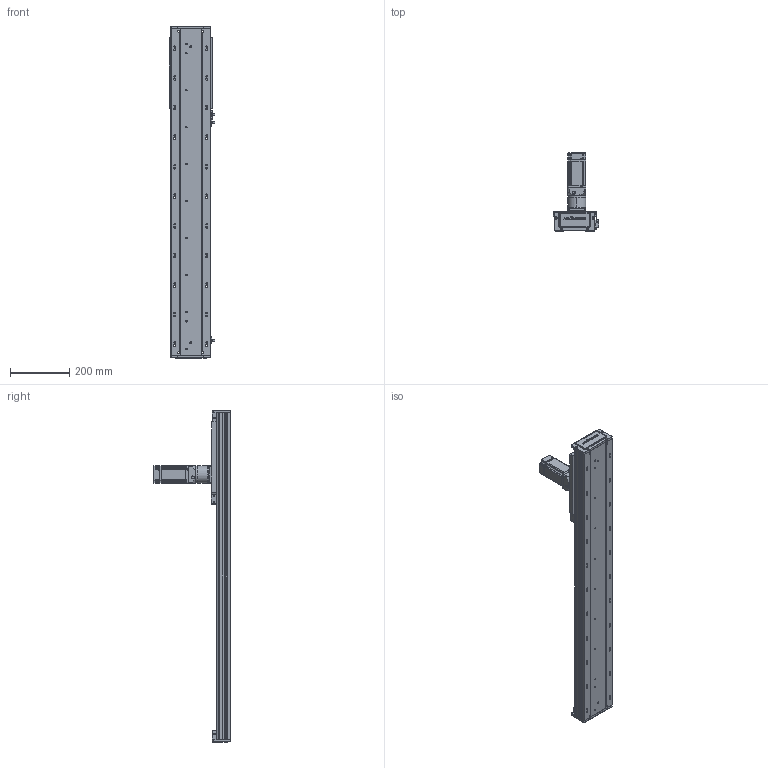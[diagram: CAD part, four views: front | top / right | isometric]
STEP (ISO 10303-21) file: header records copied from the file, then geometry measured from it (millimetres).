
FILE_DESCRIPTION (( 'STEP AP203' ), '1' );
FILE_NAME ('RY140-C-250-UK.SLDASM_750.step', '2022-03-12T01:58:29', ( '' ), ( '' ), 'SwSTEP 2.0', 'SolidWorks 2016', '' );
FILE_SCHEMA (( 'CONFIG_CONTROL_DESIGN' ));
Length unit declared in the file: millimetre
Products named in the file (12): RY140-喘謫萇儂覃誹啣; RY140-300齿条模组型材底座_750; RY140-喘沭賑輸; RY140-C-250-UK.SLDASM_750; 覜茼ん672; RY140-喘沭裔啣; 15; 絳寢賑輸EGH15; RY140-絳寢EGH15-300-MK_750; 60ZDF珨撰俋倛芞T1 200W M4; 140蚥薯蝶輸; RY120外置感应片(140共用）
Assembly tree (21 placements, depth 2):
  RY140-C-250-UK.SLDASM_750
    RY140-300齿条模组型材底座_750
    RY140-絳寢EGH15-300-MK_750  x2
    絳寢賑輸EGH15  x6
    RY140-喘沭裔啣  x2
    覜茼ん672  x3
    RY140-喘沭賑輸
    RY120外置感应片(140共用）
    RY140-喘謫萇儂覃誹啣
    140蚥薯蝶輸  x2
    60ZDF珨撰俋倛芞T1 200W M4
    15
Bounding box: 153.7 x 263.5 x 1122 mm (x, y, z)
Volume: 4443703.9 mm3; surface area: 1136935.3 mm2
Topology: 21 solids, 21 shells, 3284 faces, 8684 edges, 5626 vertices
Faces by surface type: plane 1634, cylinder 1384, cone 220, bspline 46
Entity records: 72217 total; most frequent: CARTESIAN_POINT 15485, DIRECTION 11553, ORIENTED_EDGE 11454, EDGE_CURVE 5727, AXIS2_PLACEMENT_3D 4087, VERTEX_POINT 3747, LINE 3379, VECTOR 3379
